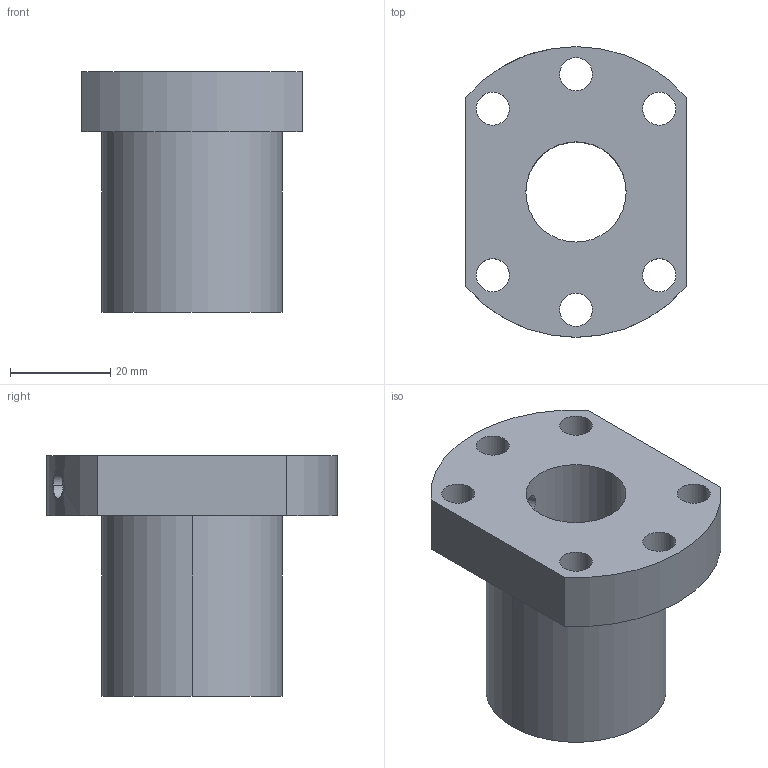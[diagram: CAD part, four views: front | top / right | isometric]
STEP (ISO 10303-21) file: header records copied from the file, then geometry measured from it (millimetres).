
FILE_DESCRIPTION((''),'2;1');
FILE_NAME('A10XFAA1','2018-09-04T',('wayne16941.lin'),(''),'PRO/ENGINEER BY PARAMETRIC TECHNOLOGY CORPORATION, 2012200','PRO/ENGINEER BY PARAMETRIC TECHNOLOGY CORPORATION, 2012200','');
FILE_SCHEMA(('CONFIG_CONTROL_DESIGN'));
Length unit declared in the file: millimetre
Products named in the file (1): A10XFAA1
Bounding box: 44 x 58 x 48 mm (x, y, z)
Volume: 46093.8 mm3; surface area: 14623.2 mm2
Topology: 1 solids, 2 shells, 32 faces, 84 edges, 56 vertices
Faces by surface type: cylinder 24, plane 6, cone 2
Entity records: 1172 total; most frequent: CARTESIAN_POINT 275, DIRECTION 186, ORIENTED_EDGE 162, EDGE_CURVE 84, AXIS2_PLACEMENT_3D 77, VERTEX_POINT 56, EDGE_LOOP 50, CIRCLE 44
